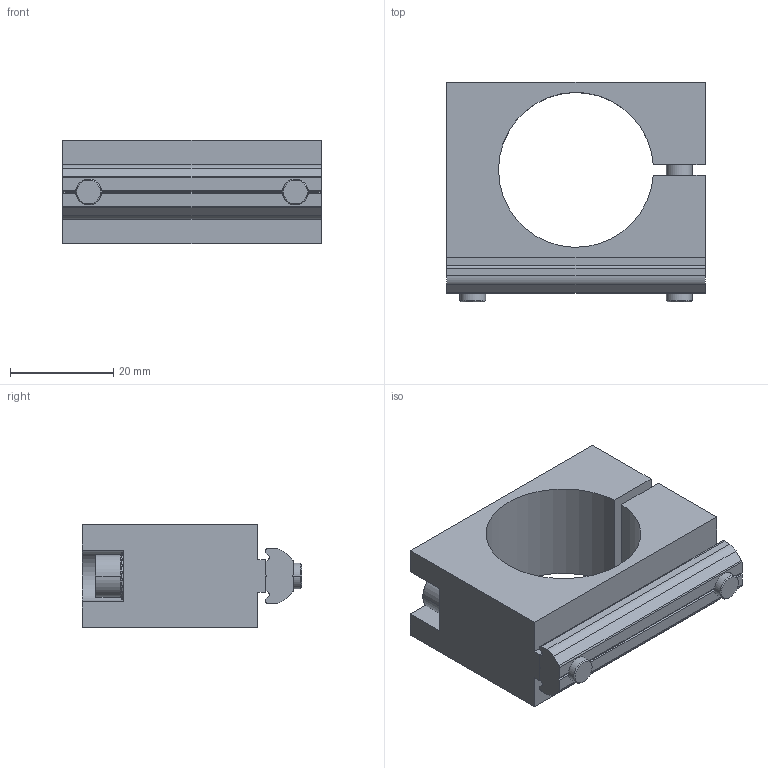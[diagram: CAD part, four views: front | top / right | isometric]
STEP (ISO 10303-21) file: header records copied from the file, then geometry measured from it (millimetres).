
FILE_DESCRIPTION (( 'STEP AP214' ), '1' );
FILE_NAME ('SMBC-3050.STEP', '2019-10-31T06:17:31', ( '微软用户' ), ( '微软中国' ), 'SwSTEP 2.0', 'SolidWorks 2016', '' );
FILE_SCHEMA (( 'AUTOMOTIVE_DESIGN' ));
Length unit declared in the file: millimetre
Products named in the file (5): PTS-M5; PTN-M5P40; PTC-M5L35; SMBC-3050
Assembly tree (6 placements, depth 2):
  SMBC-3050
    SMBC-3050
    PTC-M5L35  x2
    PTN-M5P40
    PTS-M5  x2
Bounding box: 50 x 42.55 x 20 mm (x, y, z)
Volume: 21458.5 mm3; surface area: 12271.5 mm2
Topology: 6 solids, 6 shells, 446 faces, 1302 edges, 864 vertices
Faces by surface type: plane 387, cylinder 47, cone 12
Entity records: 9090 total; most frequent: CARTESIAN_POINT 1741, ORIENTED_EDGE 1536, DIRECTION 1514, EDGE_CURVE 768, VERTEX_POINT 510, AXIS2_PLACEMENT_3D 507, LINE 500, VECTOR 500
